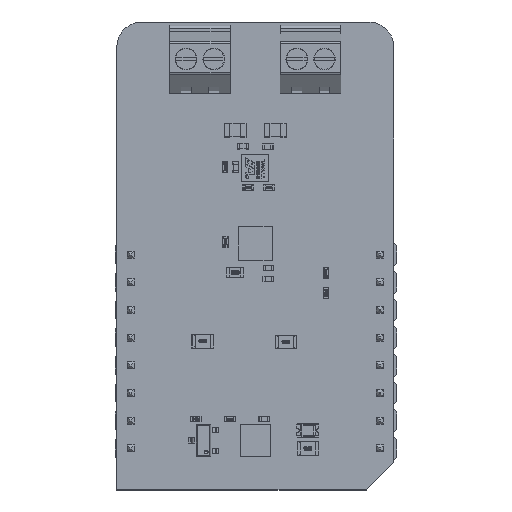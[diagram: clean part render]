
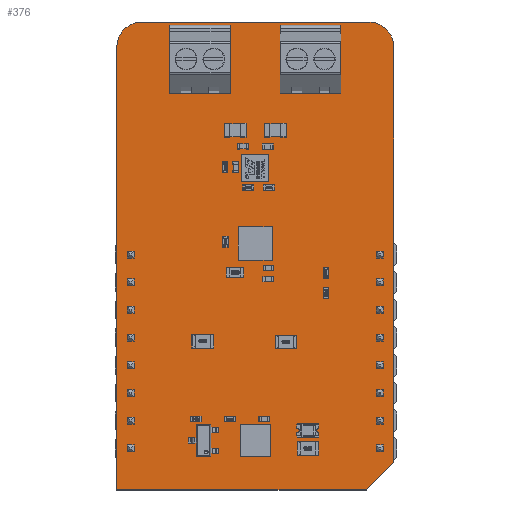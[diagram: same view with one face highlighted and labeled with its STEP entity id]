
A CAD part, top view. The second image highlights one B-rep face of the part: STEP entity #376.
In plain terms, the highlighted planar face has unit normal (0, 0, 1).
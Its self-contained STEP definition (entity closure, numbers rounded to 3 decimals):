
#147 = VERTEX_POINT('',#148);
#148 = CARTESIAN_POINT('',(-1.27,-3.81,0.));
#154 = EDGE_CURVE('',#147,#155,#157,.T.);
#155 = VERTEX_POINT('',#156);
#156 = CARTESIAN_POINT('',(-1.27,36.83,0.));
#157 = LINE('',#158,#159);
#158 = CARTESIAN_POINT('',(-1.27,-3.81,0.));
#159 = VECTOR('',#160,1.);
#160 = DIRECTION('',(0.,1.,0.));
#185 = EDGE_CURVE('',#155,#186,#188,.T.);
#186 = VERTEX_POINT('',#187);
#187 = CARTESIAN_POINT('',(1.016,39.116,0.));
#188 = CIRCLE('',#189,2.288);
#189 = AXIS2_PLACEMENT_3D('',#190,#191,#192);
#190 = CARTESIAN_POINT('',(1.018,36.828,0.));
#191 = DIRECTION('',(0.,0.,-1.));
#192 = DIRECTION('',(-1.,0.001,0.));
#218 = EDGE_CURVE('',#186,#219,#221,.T.);
#219 = VERTEX_POINT('',#220);
#220 = CARTESIAN_POINT('',(21.844,39.116,0.));
#221 = LINE('',#222,#223);
#222 = CARTESIAN_POINT('',(1.016,39.116,0.));
#223 = VECTOR('',#224,1.);
#224 = DIRECTION('',(1.,0.,0.));
#249 = EDGE_CURVE('',#219,#250,#252,.T.);
#250 = VERTEX_POINT('',#251);
#251 = CARTESIAN_POINT('',(24.13,36.83,0.));
#252 = CIRCLE('',#253,2.288);
#253 = AXIS2_PLACEMENT_3D('',#254,#255,#256);
#254 = CARTESIAN_POINT('',(21.842,36.828,0.));
#255 = DIRECTION('',(0.,0.,-1.));
#256 = DIRECTION('',(0.001,1.,0.));
#282 = EDGE_CURVE('',#250,#283,#285,.T.);
#283 = VERTEX_POINT('',#284);
#284 = CARTESIAN_POINT('',(24.13,-1.27,0.));
#285 = LINE('',#286,#287);
#286 = CARTESIAN_POINT('',(24.13,36.83,0.));
#287 = VECTOR('',#288,1.);
#288 = DIRECTION('',(0.,-1.,0.));
#313 = EDGE_CURVE('',#283,#314,#316,.T.);
#314 = VERTEX_POINT('',#315);
#315 = CARTESIAN_POINT('',(21.59,-3.81,0.));
#316 = LINE('',#317,#318);
#317 = CARTESIAN_POINT('',(24.13,-1.27,0.));
#318 = VECTOR('',#319,1.);
#319 = DIRECTION('',(-0.707,-0.707,0.));
#344 = EDGE_CURVE('',#314,#147,#345,.T.);
#345 = LINE('',#346,#347);
#346 = CARTESIAN_POINT('',(21.59,-3.81,0.));
#347 = VECTOR('',#348,1.);
#348 = DIRECTION('',(-1.,0.,0.));
#376 = ADVANCED_FACE('',(#377),#386,.T.);
#377 = FACE_BOUND('',#378,.F.);
#378 = EDGE_LOOP('',(#379,#380,#381,#382,#383,#384,#385));
#379 = ORIENTED_EDGE('',*,*,#154,.T.);
#380 = ORIENTED_EDGE('',*,*,#185,.T.);
#381 = ORIENTED_EDGE('',*,*,#218,.T.);
#382 = ORIENTED_EDGE('',*,*,#249,.T.);
#383 = ORIENTED_EDGE('',*,*,#282,.T.);
#384 = ORIENTED_EDGE('',*,*,#313,.T.);
#385 = ORIENTED_EDGE('',*,*,#344,.T.);
#386 = PLANE('',#387);
#387 = AXIS2_PLACEMENT_3D('',#388,#389,#390);
#388 = CARTESIAN_POINT('',(-1.27,-3.81,0.));
#389 = DIRECTION('',(0.,0.,1.));
#390 = DIRECTION('',(1.,0.,0.));
